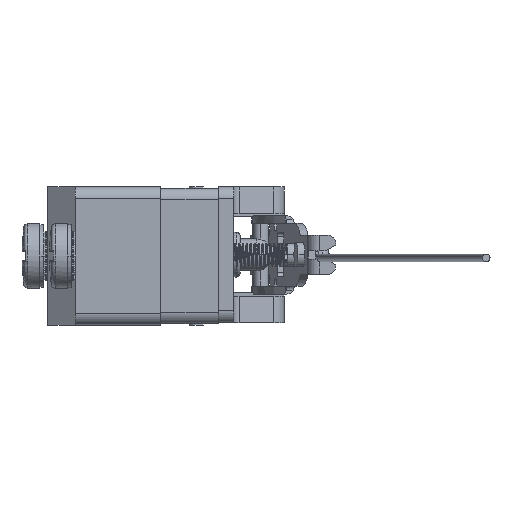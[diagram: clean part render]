
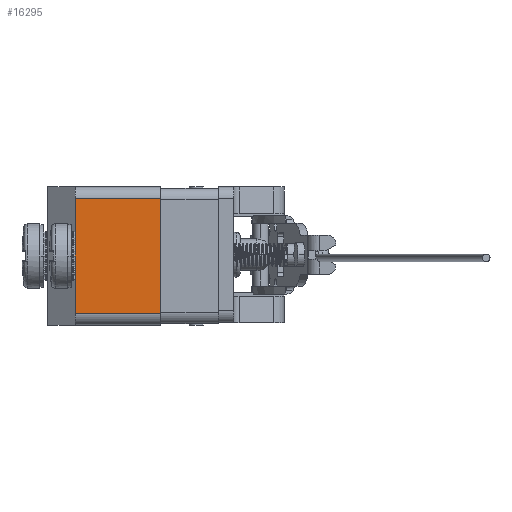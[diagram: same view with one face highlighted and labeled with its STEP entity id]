
A CAD part, left-side view. The second image highlights one B-rep face of the part: STEP entity #16295.
In plain terms, the highlighted planar face has unit normal (-1, 0, 0).
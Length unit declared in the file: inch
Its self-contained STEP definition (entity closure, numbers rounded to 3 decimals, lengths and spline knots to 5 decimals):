
#1699=DIRECTION('',(0.,0.,-1.));
#1700=VECTOR('',#1699,14.6);
#1701=CARTESIAN_POINT('',(75.8107,-15.51007,-1.5));
#1702=LINE('',#1701,#1700);
#2547=DIRECTION('',(0.,-1.,0.));
#2548=VECTOR('',#2547,10.9);
#2549=CARTESIAN_POINT('',(75.8107,-15.51007,-16.1));
#2550=LINE('',#2549,#2548);
#2575=DIRECTION('',(0.,0.,1.));
#2576=VECTOR('',#2575,14.6);
#2577=CARTESIAN_POINT('',(75.8107,-26.41007,-16.1));
#2578=LINE('',#2577,#2576);
#2615=DIRECTION('',(0.,1.,0.));
#2616=VECTOR('',#2615,10.9);
#2617=CARTESIAN_POINT('',(75.8107,-26.41007,-1.5));
#2618=LINE('',#2617,#2616);
#11410=CARTESIAN_POINT('',(75.8107,-26.41007,-1.5));
#11412=VERTEX_POINT('',#11410);
#11420=CARTESIAN_POINT('',(75.8107,-26.41007,-16.1));
#11421=VERTEX_POINT('',#11420);
#11438=CARTESIAN_POINT('',(75.8107,-15.51007,-1.5));
#11439=VERTEX_POINT('',#11438);
#11442=CARTESIAN_POINT('',(75.8107,-15.51007,-16.1));
#11443=VERTEX_POINT('',#11442);
#16284=CARTESIAN_POINT('',(75.8107,-20.96007,-8.8));
#16285=DIRECTION('',(1.,0.,0.));
#16286=DIRECTION('',(0.,-1.,0.));
#16287=AXIS2_PLACEMENT_3D('',#16284,#16285,#16286);
#16288=PLANE('',#16287);
#16289=ORIENTED_EDGE('',*,*,#16224,.F.);
#16290=ORIENTED_EDGE('',*,*,#16079,.F.);
#16291=ORIENTED_EDGE('',*,*,#16276,.F.);
#16292=ORIENTED_EDGE('',*,*,#16247,.F.);
#16293=EDGE_LOOP('',(#16289,#16290,#16291,#16292));
#16294=FACE_OUTER_BOUND('',#16293,.F.);
#16295=ADVANCED_FACE('',(#16294),#16288,.F.);
#16079=EDGE_CURVE('',#11439,#11443,#1702,.T.);
#16224=EDGE_CURVE('',#11443,#11421,#2550,.T.);
#16247=EDGE_CURVE('',#11421,#11412,#2578,.T.);
#16276=EDGE_CURVE('',#11412,#11439,#2618,.T.);
